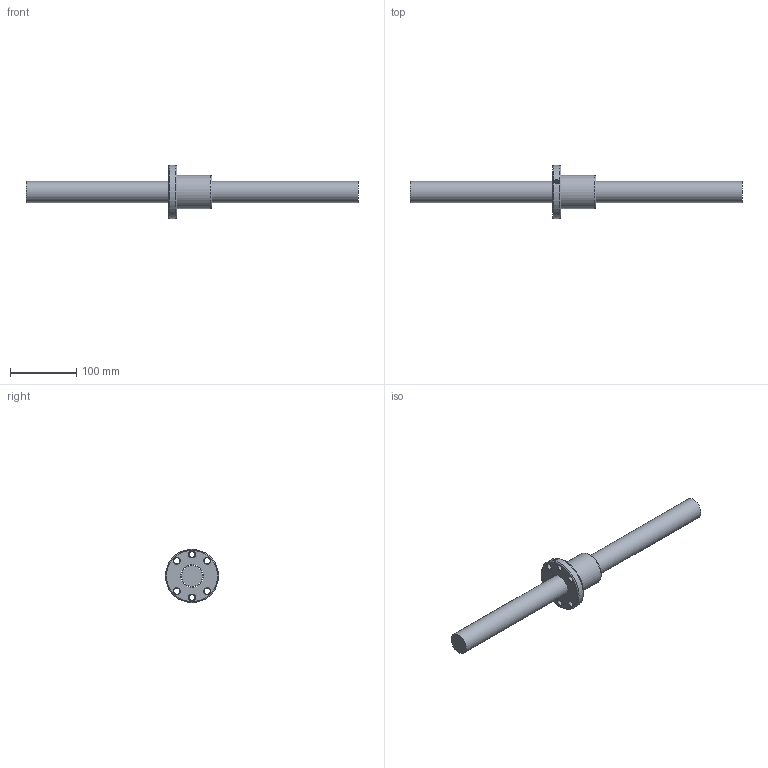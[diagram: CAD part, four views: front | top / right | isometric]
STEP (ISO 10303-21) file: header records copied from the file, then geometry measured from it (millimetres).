
FILE_DESCRIPTION (( 'STEP AP203' ), '1' );
FILE_NAME ('SFU03208N-4.step', '2024-05-14T06:01:47', ( '' ), ( '' ), 'SwSTEP 2.0', 'SolidWorks 2022', '' );
FILE_SCHEMA (( 'CONFIG_CONTROL_DESIGN' ));
Length unit declared in the file: millimetre
Products named in the file (1): SFU03208N-4
Bounding box: 500 x 80 x 80 mm (x, y, z)
Volume: 499264.3 mm3; surface area: 79444.9 mm2
Topology: 2 solids, 2 shells, 45 faces, 103 edges, 63 vertices
Faces by surface type: cylinder 18, cone 13, plane 6, bspline 5, torus 3
Full cylindrical faces by diameter (mm): 4 x1, 5 x6, 9 x6, 32 x1, 34.6 x1, 50 x1, 80 x1
Entity records: 2707 total; most frequent: CARTESIAN_POINT 1912, DIRECTION 148, ORIENTED_EDGE 102, EDGE_LOOP 84, AXIS2_PLACEMENT_3D 72, FACE_OUTER_BOUND 54, EDGE_CURVE 51, VERTEX_POINT 47
